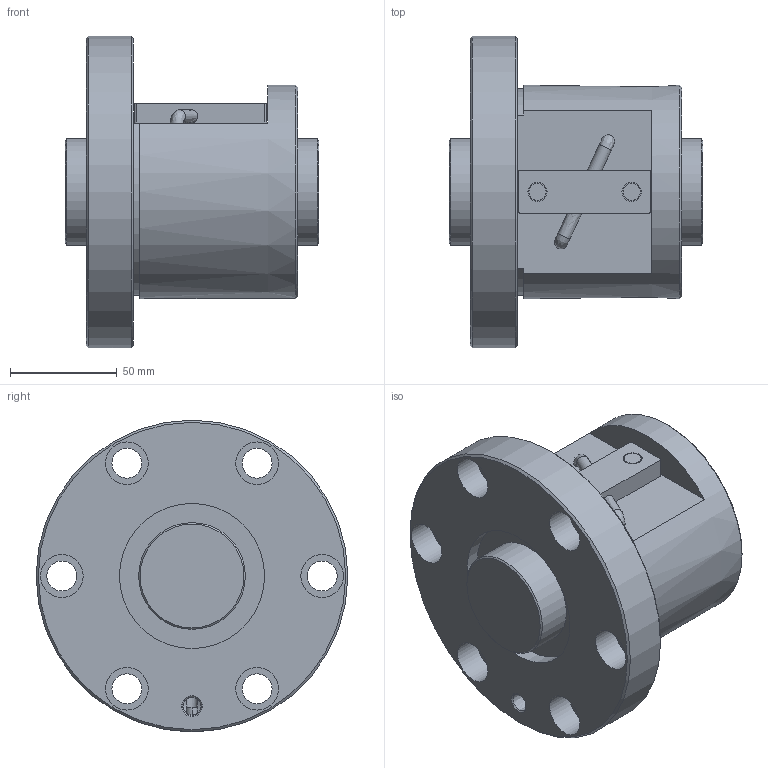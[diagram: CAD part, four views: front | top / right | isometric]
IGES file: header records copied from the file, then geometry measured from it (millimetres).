
Start section: Data from Parasolid IGES Translator 26.0.171, Copyright(c) 2006 Siemens PLM Software. All Rights Reserved.
Global section: file name: BNF5012V-3.5RRG1+119LC0_000_rev.igs; native system: By Siemens PLM Incorporated; preprocessor: XPlus GENERIC/IGES 26.0.171; author: Noname; organization: Noname; date: 20240806.090951; units: millimetre
Bounding box: 119 x 146 x 146 mm (x, y, z)
Surface area: 112736.8 mm2 (no closed solid volume)
Topology: 0 solids, 0 shells, 72 faces, 334 edges, 294 vertices
Faces by surface type: revolution 45, extrusion 27
